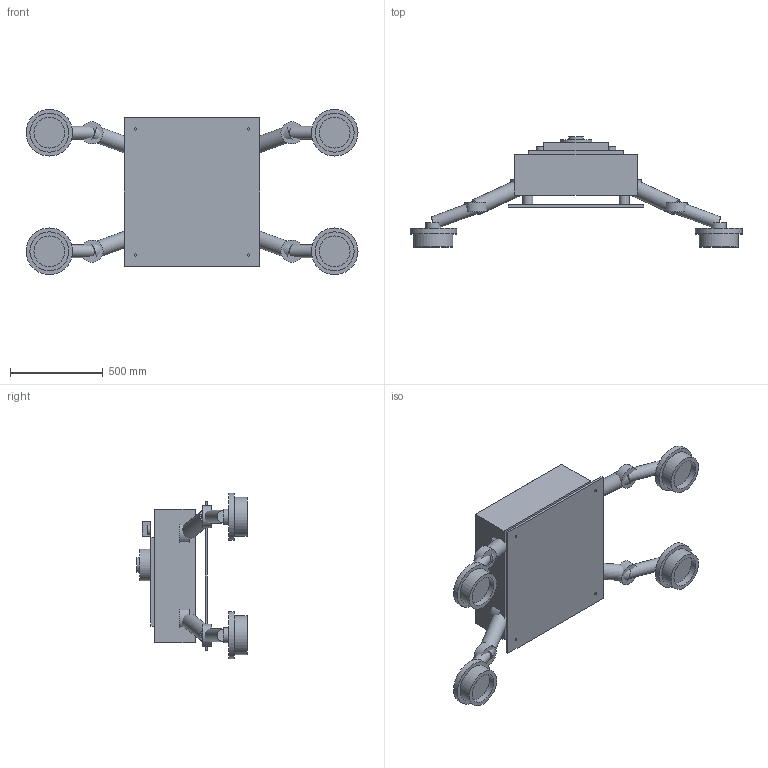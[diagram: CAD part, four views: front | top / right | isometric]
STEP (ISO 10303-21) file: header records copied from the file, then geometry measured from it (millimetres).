
FILE_DESCRIPTION(('Open CASCADE Model'),'2;1');
FILE_NAME('Open CASCADE Shape Model','2026-10-31T07:08:46',('Author'),( 'Open CASCADE'),'Open CASCADE STEP processor 7.9','Open CASCADE 7.9' ,'Unknown');
FILE_SCHEMA(('AUTOMOTIVE_DESIGN { 1 0 10303 214 1 1 1 1 }'));
Length unit declared in the file: millimetre
Products named in the file (41): WC01_Wall_Climber; rear_plate_4x_dia12_holes; standoff_-260_-280; standoff_-260_280; standoff_260_-280; standoff_260_280; main_enclosure; front_access_cover; upper_service_module; sensor_housing; sensor_lens; status_light_-190; status_light_190; shoulder_pivot_L_lower; primary_arm_L_lower; elbow_pivot_L_lower; secondary_arm_L_lower; hollow_suction_cup_L_lower; pad_flange_L_lower; pad_hub_L_lower; shoulder_pivot_L_upper; primary_arm_L_upper; elbow_pivot_L_upper; secondary_arm_L_upper; hollow_suction_cup_L_upper; pad_flange_L_upper; pad_hub_L_upper; shoulder_pivot_R_lower; primary_arm_R_lower; elbow_pivot_R_lower; secondary_arm_R_lower; hollow_suction_cup_R_lower; pad_flange_R_lower; pad_hub_R_lower; shoulder_pivot_R_upper; primary_arm_R_upper; elbow_pivot_R_upper; secondary_arm_R_upper; hollow_suction_cup_R_upper; pad_flange_R_upper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
Assembly tree (40 placements, depth 2):
  WC01_Wall_Climber
    rear_plate_4x_dia12_holes
    standoff_-260_-280
    standoff_-260_280
    standoff_260_-280
    standoff_260_280
    main_enclosure
    front_access_cover
    upper_service_module
    sensor_housing
    sensor_lens
    status_light_-190
    status_light_190
    shoulder_pivot_L_lower
    primary_arm_L_lower
    elbow_pivot_L_lower
    secondary_arm_L_lower
    hollow_suction_cup_L_lower
    pad_flange_L_lower
    pad_hub_L_lower
    shoulder_pivot_L_upper
    primary_arm_L_upper
    elbow_pivot_L_upper
    secondary_arm_L_upper
    hollow_suction_cup_L_upper
    pad_flange_L_upper
    pad_hub_L_upper
    shoulder_pivot_R_lower
    primary_arm_R_lower
    elbow_pivot_R_lower
    secondary_arm_R_lower
    hollow_suction_cup_R_lower
    pad_flange_R_lower
    pad_hub_R_lower
    shoulder_pivot_R_upper
    primary_arm_R_upper
    elbow_pivot_R_upper
    secondary_arm_R_upper
    hollow_suction_cup_R_upper
    pad_flange_R_upper
    pad_hub_R_upper
Bounding box: 1792 x 595 x 892 mm (x, y, z)
Volume: 148279107.6 mm3; surface area: 5592213.4 mm2
Topology: 40 solids, 40 shells, 144 faces, 180 edges, 120 vertices
Faces by surface type: plane 100, cylinder 44
Full cylindrical faces by diameter (mm): 12 x4, 50 x2, 54 x4, 68 x4, 78 x1, 82 x4, 86 x4, 120 x4, 124 x4, 166 x4, 170 x1, 210 x4, 252 x4
Entity records: 6255 total; most frequent: DIRECTION 998, CARTESIAN_POINT 845, LINE 364, VECTOR 364, ORIENTED_EDGE 360, PCURVE 360, DEFINITIONAL_REPRESENTATION 360, AXIS2_PLACEMENT_3D 273
